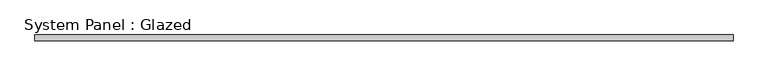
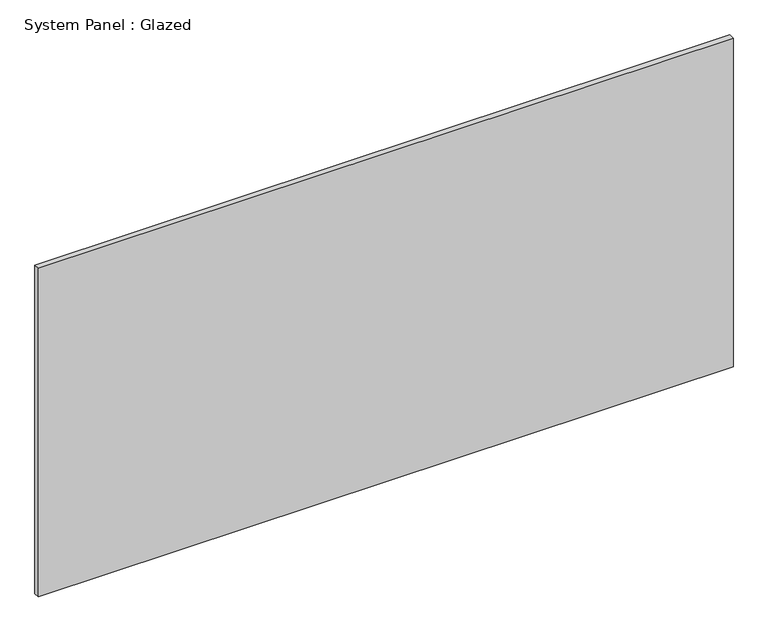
"""IFC4 building model written with IfcOpenShell, lengths in millimetres: plate geometry, System Panel : Glazed."""

from ifc_helpers import new_model, si_unit, origin, origin_with_axes, place, context, project, spatial, polyline, outline, extrude, source, transform, mapped, element, save


def system_panel_glazed_0faff7bc(model_context):
    return source(origin(), model_context, "Body", "SweptSolid", [
        extrude(outline(polyline([(1524.0, 19.05), (-1524.0, 19.05), (-1524.0, 44.45), (1524.0, 44.45), (1524.0, 19.05)])), origin_with_axes(), (0.0, 0.0, 1.0), 1524.0),
    ])


if __name__ == "__main__":
    model = new_model("IFC4")
    model_context = context("Model", 3, world=origin())
    ifc_project = project(units=[si_unit("LENGTHUNIT", "METRE", prefix="MILLI")], contexts=[model_context])
    site = spatial("IfcSite", under=ifc_project)
    building = spatial("IfcBuilding", under=site)
    placement = place(None, origin())
    system_panel_glazed_shape = system_panel_glazed_0faff7bc(model_context)
    element("IfcPlate", 1, ObjectType="System Panel : Glazed", at=placement, inside=building, context=model_context, shape_type="MappedRepresentation", body=[
        mapped(system_panel_glazed_shape, transform((0.0, 0.0, 0.0), x_axis=(1.0, 0.0, 0.0), y_axis=(0.0, 1.0, 0.0), z_axis=(0.0, 0.0, 1.0))),
    ])
    save(model, "model.ifc")
